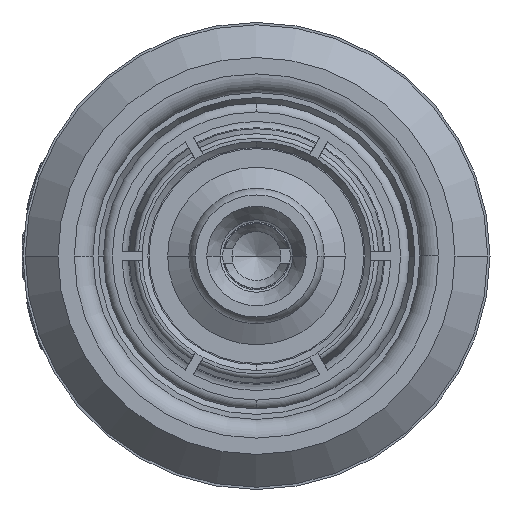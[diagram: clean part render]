
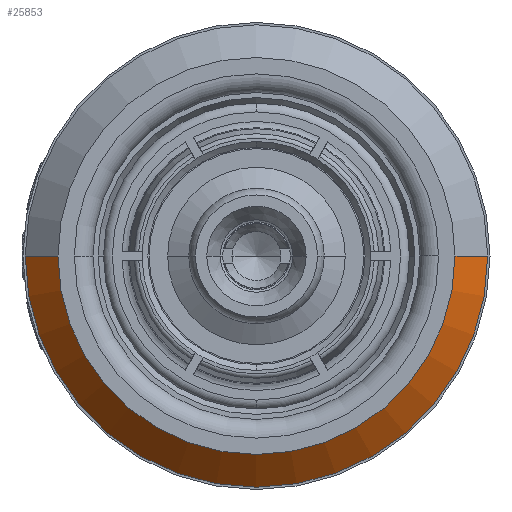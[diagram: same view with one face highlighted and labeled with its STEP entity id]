
A CAD part, left-side view. The second image highlights one B-rep face of the part: STEP entity #25853.
In plain terms, the highlighted conical face has half-angle 45 degrees and reference radius 4.6 mm.
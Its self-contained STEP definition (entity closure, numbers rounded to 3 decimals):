
#10285=CARTESIAN_POINT('',(0.7,0.,0.));
#10286=DIRECTION('',(1.,0.,0.));
#10287=DIRECTION('',(0.,-1.,0.));
#10288=AXIS2_PLACEMENT_3D('',#10285,#10286,#10287);
#10315=DIRECTION('',(-0.707,0.707,0.));
#10316=VECTOR('',#10315,0.99);
#10317=CARTESIAN_POINT('',(0.7,-4.95,
0.));
#10318=LINE('',#10317,#10316);
#10322=DIRECTION('',(-0.707,-0.707,0.));
#10323=VECTOR('',#10322,0.99);
#10324=CARTESIAN_POINT('',(0.7,4.95,
0.));
#10325=LINE('',#10324,#10323);
#10369=CARTESIAN_POINT('',(0.,0.,0.));
#10370=DIRECTION('',(1.,0.,0.));
#10371=DIRECTION('',(0.,-1.,0.));
#10372=AXIS2_PLACEMENT_3D('',#10369,#10370,#10371);
#17850=CARTESIAN_POINT('',(0.7,4.95,0.));
#17851=CARTESIAN_POINT('',(0.7,-4.95,0.));
#17852=VERTEX_POINT('',#17850);
#17853=VERTEX_POINT('',#17851);
#17854=CARTESIAN_POINT('',(0.,4.25,0.));
#17855=CARTESIAN_POINT('',(0.,-4.25,0.));
#17856=VERTEX_POINT('',#17854);
#17857=VERTEX_POINT('',#17855);
#25839=CARTESIAN_POINT('',(0.35,0.,0.));
#25840=DIRECTION('',(1.,0.,0.));
#25841=DIRECTION('',(0.,0.,-1.));
#25842=AXIS2_PLACEMENT_3D('',#25839,#25840,#25841);
#25843=CONICAL_SURFACE('',#25842,4.6,45.);
#25844=ORIENTED_EDGE('',*,*,#25829,.T.);
#25846=ORIENTED_EDGE('',*,*,#25845,.T.);
#25848=ORIENTED_EDGE('',*,*,#25847,.F.);
#25850=ORIENTED_EDGE('',*,*,#25849,.F.);
#25851=EDGE_LOOP('',(#25844,#25846,#25848,#25850));
#25852=FACE_OUTER_BOUND('',#25851,.F.);
#25853=ADVANCED_FACE('',(#25852),#25843,.T.);
#10289=CIRCLE('',#10288,4.95);
#10373=CIRCLE('',#10372,4.25);
#25829=EDGE_CURVE('',#17853,#17852,#10289,.T.);
#25845=EDGE_CURVE('',#17852,#17856,#10325,.T.);
#25847=EDGE_CURVE('',#17857,#17856,#10373,.T.);
#25849=EDGE_CURVE('',#17853,#17857,#10318,.T.);
